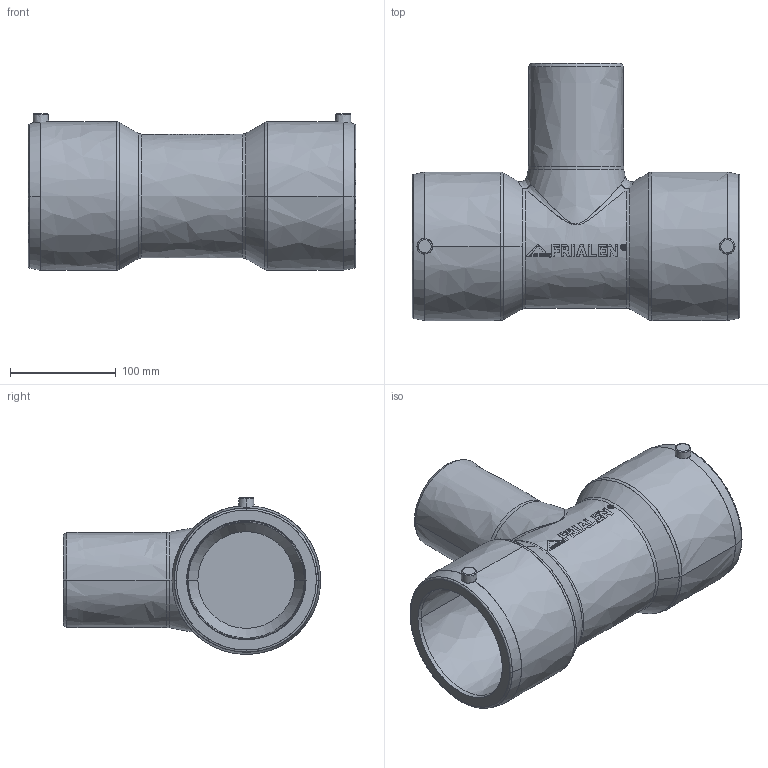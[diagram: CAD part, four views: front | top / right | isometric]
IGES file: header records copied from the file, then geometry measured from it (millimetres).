
Start section:  PTC IGES file: ta-red_d110_d90_01.igs
Global section: file name: ta-red_d110_d90_01.igs; native system: Creo Parametric by PTC Inc.; preprocessor: 2019030; author: mikulicp; organization: Unknown; date: 20210112.083749; units: millimetre
Bounding box: 310 x 243.25 x 148.12 mm (x, y, z)
Surface area: 261990.3 mm2 (no closed solid volume)
Topology: 0 solids, 0 shells, 288 faces, 1460 edges, 1460 vertices
Faces by surface type: bspline 288
